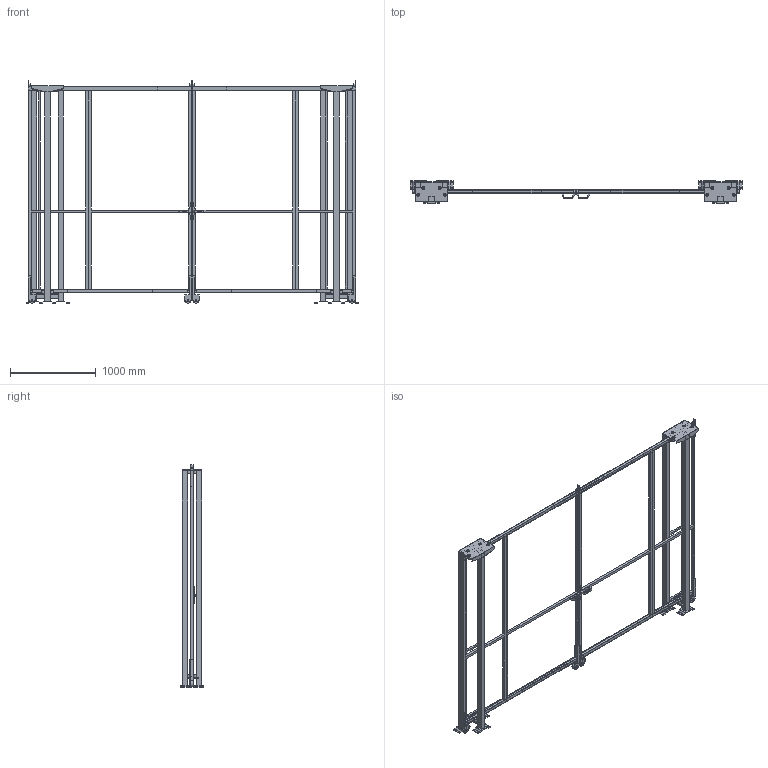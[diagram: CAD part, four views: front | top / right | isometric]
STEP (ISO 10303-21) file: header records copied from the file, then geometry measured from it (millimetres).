
FILE_DESCRIPTION(/* description */ (''),/* implementation_level */ '2;1');
FILE_NAME(/* name */ 'C:\SafeGuarding\ELABORATI\KLADKA2KR_2025-03-25-12-49-17.stp',/* time_stamp */ '2025-03-25T12:49:20+01:00',/* author */ ('admin'),/* organization */ (''),/* preprocessor_version */ 'ST-DEVELOPER v18.1',/* originating_system */ 'AutoCAD Mechanical',/* authorisation */ '');
FILE_SCHEMA (('AUTOMOTIVE_DESIGN { 1 0 10303 214 3 1 1 }'));
Length unit declared in the file: millimetre
Products named in the file (5): Product; VFPA.REPE30.07002400; VFPA.REPE30.12002400; VFPA.REPE2002502400; P_VFMA.V260SDU.2520
Assembly tree (12 placements, depth 2):
  Product
    VFPA.REPE30.07002400  x2
    VFPA.REPE30.12002400  x2
    P_VFMA.V260SDU.2520  x6
    VFPA.REPE2002502400  x2
Bounding box: 3871.38 x 264 x 2590.02 mm (x, y, z)
Volume: 92008353.5 mm3; surface area: 12535247.5 mm2
Topology: 84 solids, 106 shells, 850 faces, 2807 edges, 2785 vertices
Faces by surface type: plane 774, cylinder 76
Full cylindrical faces by diameter (mm): 9 x8, 11 x24, 13 x8, 14 x4, 30 x12, 36 x16, 80 x4
Entity records: 22846 total; most frequent: CARTESIAN_POINT 4840, DIRECTION 3469, ORIENTED_EDGE 3228, EDGE_CURVE 1712, LINE 1633, VECTOR 1633, VERTEX_POINT 1220, AXIS2_PLACEMENT_3D 918
